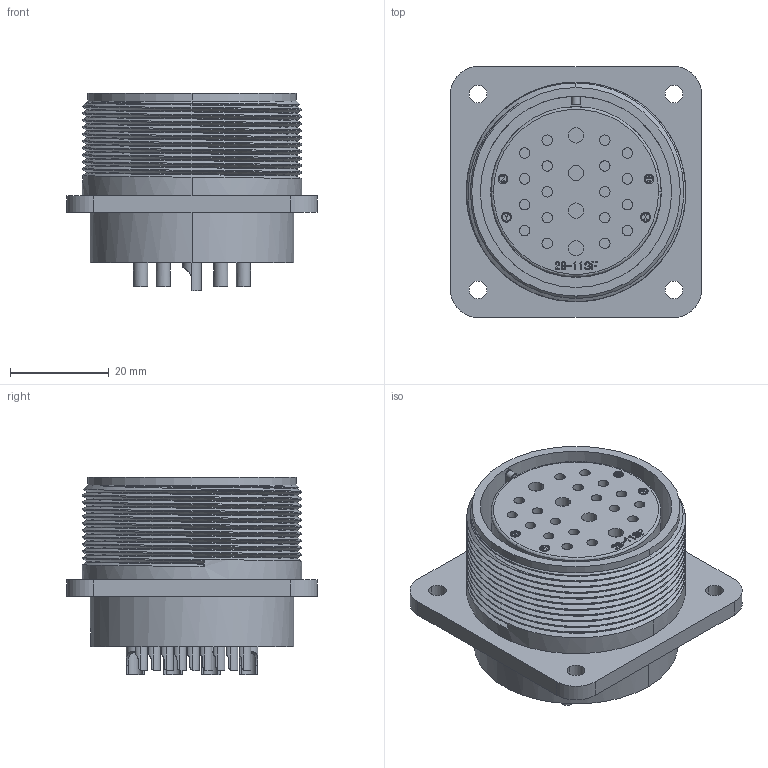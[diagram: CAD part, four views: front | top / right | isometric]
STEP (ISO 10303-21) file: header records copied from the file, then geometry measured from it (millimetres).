
FILE_DESCRIPTION (( 'STEP AP203' ), '1' );
FILE_NAME ('DMS3102A28-11S.STEP', '2017-03-07T00:28:20', ( '' ), ( '' ), 'SwSTEP 2.0', 'SolidWorks 2015', '' );
FILE_SCHEMA (( 'CONFIG_CONTROL_DESIGN' ));
Products named in the file (1): DMS3102A28-11S
Bounding box: 50.8 x 50.8 x 40.03 mm (x, y, z)
Volume: 45753.6 mm3; surface area: 23137.3 mm2
Topology: 1 solids, 1 shells, 1281 faces, 3435 edges, 2279 vertices
Faces by surface type: plane 616, cylinder 489, bspline 171, cone 5
Entity records: 46892 total; most frequent: CARTESIAN_POINT 15990, ORIENTED_EDGE 6870, DIRECTION 5710, EDGE_CURVE 3435, VERTEX_POINT 2279, LINE 1972, VECTOR 1972, AXIS2_PLACEMENT_3D 1869
